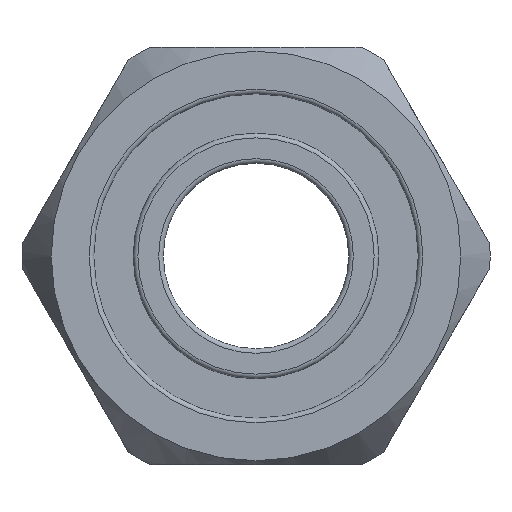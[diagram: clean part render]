
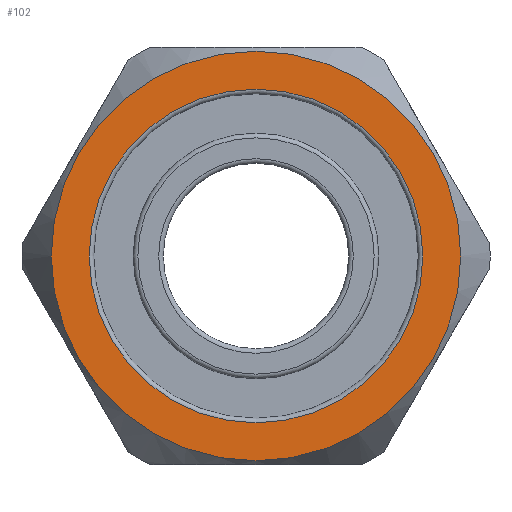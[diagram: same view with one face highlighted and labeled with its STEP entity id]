
A CAD part, left-side view. The second image highlights one B-rep face of the part: STEP entity #102.
In plain terms, the highlighted planar face has unit normal (-1, 0, 0).
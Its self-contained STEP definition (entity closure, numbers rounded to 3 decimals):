
#102 = ADVANCED_FACE( '', ( #233, #234 ), #235, .F. );
#233 = FACE_OUTER_BOUND( '', #402, .T. );
#234 = FACE_BOUND( '', #403, .T. );
#235 = PLANE( '', #404 );
#402 = EDGE_LOOP( '', ( #642 ) );
#403 = EDGE_LOOP( '', ( #643 ) );
#404 = AXIS2_PLACEMENT_3D( '', #644, #645, #646 );
#642 = ORIENTED_EDGE( '', *, *, #957, .F. );
#643 = ORIENTED_EDGE( '', *, *, #962, .T. );
#644 = CARTESIAN_POINT( '', ( 0., 0., 0. ) );
#645 = DIRECTION( '', ( 1., 0., 0. ) );
#646 = DIRECTION( '', ( 0., 0., -1. ) );
#957 = EDGE_CURVE( '', #1136, #1136, #1137, .T. );
#962 = EDGE_CURVE( '', #1143, #1143, #1144, .T. );
#1136 = VERTEX_POINT( '', #1562 );
#1137 = CIRCLE( '', #1563, 22.094 );
#1143 = VERTEX_POINT( '', #1578 );
#1144 = CIRCLE( '', #1579, 18. );
#1562 = CARTESIAN_POINT( '', ( 0., 0., -22.094 ) );
#1563 = AXIS2_PLACEMENT_3D( '', #1838, #1839, #1840 );
#1578 = CARTESIAN_POINT( '', ( 0., 0., -18. ) );
#1579 = AXIS2_PLACEMENT_3D( '', #1842, #1843, #1844 );
#1838 = CARTESIAN_POINT( '', ( 0., 0., 0. ) );
#1839 = DIRECTION( '', ( 1., 0., 0. ) );
#1840 = DIRECTION( '', ( 0., 0., -1. ) );
#1842 = CARTESIAN_POINT( '', ( 0., 0., 0. ) );
#1843 = DIRECTION( '', ( 1., 0., 0. ) );
#1844 = DIRECTION( '', ( 0., 0., -1. ) );
